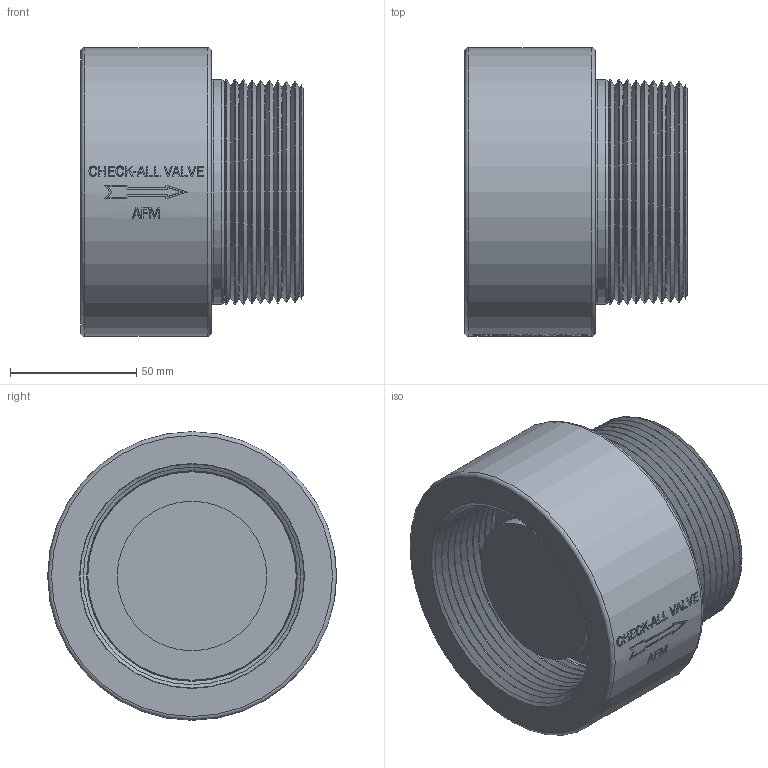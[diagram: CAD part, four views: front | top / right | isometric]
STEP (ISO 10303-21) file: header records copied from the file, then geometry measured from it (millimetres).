
FILE_DESCRIPTION(/* description */ ('Unknown'),/* implementation_level */ '2;1');
FILE_NAME(/* name */ 'AFMXXOR.500XX-WEB',/* time_stamp */ '2022-10-03T12:08:16-05:00',/* author */ ('Unknown'),/* organization */ ('Unknown'),/* preprocessor_version */ 'ST-DEVELOPER v18.102',/* originating_system */ 'Solid Edge',/* authorisation */ 'Unknown');
FILE_SCHEMA (('AUTOMOTIVE_DESIGN {1 0 10303 214 3 1 1}'));
Length unit declared in the file: inch
Products named in the file (1): AFMXXOR.500XX-WEB
Bounding box: 88.06 x 114.3 x 114.3 mm (x, y, z)
Volume: 597840.6 mm3; surface area: 73345.7 mm2
Topology: 1 solids, 2 shells, 293 faces, 725 edges, 461 vertices
Faces by surface type: plane 167, cone 74, cylinder 41, torus 7, bspline 4
Full cylindrical faces by diameter (mm): 51.435 x1, 59.258 x1, 75.123 x1, 82.552 x4, 88.9 x3, 114.3 x1
Entity records: 11463 total; most frequent: CARTESIAN_POINT 3183, ORIENTED_EDGE 1228, DIRECTION 1182, EDGE_CURVE 614, AXIS2_PLACEMENT_3D 478, VERTEX_POINT 442, EDGE_LOOP 412, FACE_BOUND 412
